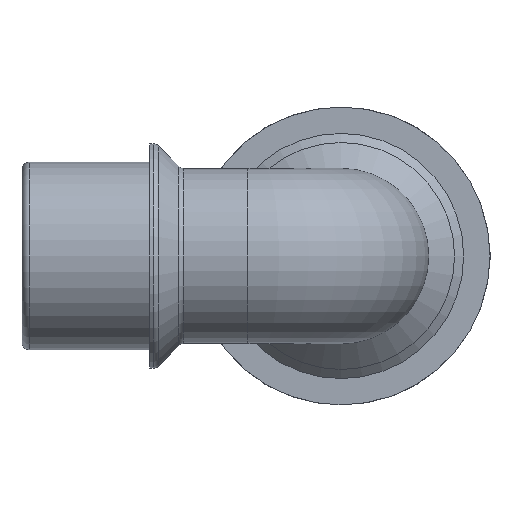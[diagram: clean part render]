
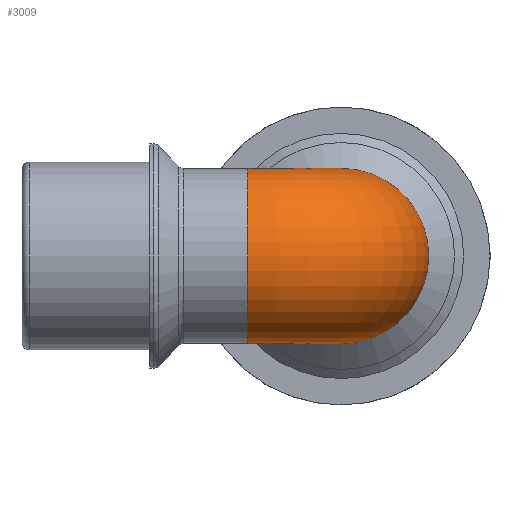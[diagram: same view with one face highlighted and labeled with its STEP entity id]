
A CAD part, left-side view. The second image highlights one B-rep face of the part: STEP entity #3009.
In plain terms, the highlighted toroidal (fillet/blend) face has major radius 13.14 mm and minor radius 12.361 mm.
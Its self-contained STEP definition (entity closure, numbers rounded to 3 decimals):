
#609=TOROIDAL_SURFACE('',#3226,13.14,12.361);
#628=FACE_BOUND('',#869,.T.);
#654=FACE_OUTER_BOUND('',#868,.T.);
#868=EDGE_LOOP('',(#2024));
#869=EDGE_LOOP('',(#2025));
#1105=CIRCLE('',#3227,12.361);
#1106=CIRCLE('',#3228,12.361);
#1285=VERTEX_POINT('',#4589);
#1286=VERTEX_POINT('',#4591);
#1561=EDGE_CURVE('',#1285,#1285,#1105,.T.);
#1562=EDGE_CURVE('',#1286,#1286,#1106,.T.);
#2024=ORIENTED_EDGE('',*,*,#1561,.F.);
#2025=ORIENTED_EDGE('',*,*,#1562,.T.);
#3009=ADVANCED_FACE('',(#654,#628),#609,.T.);
#3226=AXIS2_PLACEMENT_3D('',#4588,#3625,#3626);
#3227=AXIS2_PLACEMENT_3D('',#4590,#3627,#3628);
#3228=AXIS2_PLACEMENT_3D('',#4592,#3629,#3630);
#3625=DIRECTION('center_axis',(0.,0.,1.));
#3626=DIRECTION('ref_axis',(1.,0.,0.));
#3627=DIRECTION('center_axis',(1.,0.,0.));
#3628=DIRECTION('ref_axis',(0.,0.,-1.));
#3629=DIRECTION('center_axis',(0.,-1.,0.));
#3630=DIRECTION('ref_axis',(-1.,0.,0.));
#4588=CARTESIAN_POINT('Origin',(13.14,13.14,0.));
#4589=CARTESIAN_POINT('',(13.14,12.361,0.));
#4590=CARTESIAN_POINT('Origin',(13.14,0.,0.));
#4591=CARTESIAN_POINT('',(12.361,13.14,0.));
#4592=CARTESIAN_POINT('Origin',(0.,13.14,0.));
